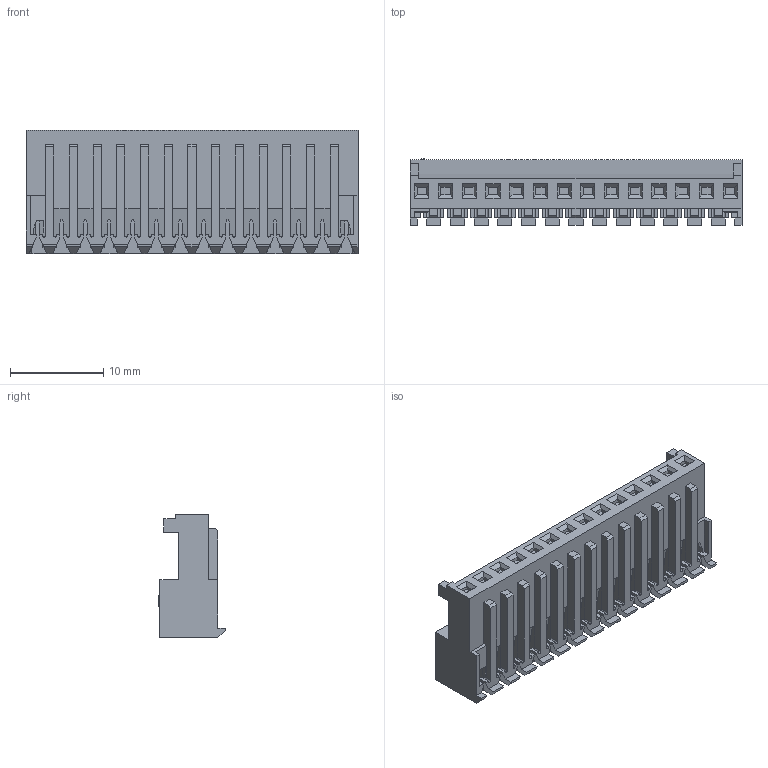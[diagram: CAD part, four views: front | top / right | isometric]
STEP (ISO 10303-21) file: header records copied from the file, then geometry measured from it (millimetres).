
FILE_DESCRIPTION((''),'2;1');
FILE_NAME('C-4-644512-4','2008-12-23T',('workeradm'),('Tyco Electronics Corporation'),'PRO/ENGINEER BY PARAMETRIC TECHNOLOGY CORPORATION, 2005450','PRO/ENGINEER BY PARAMETRIC TECHNOLOGY CORPORATION, 2005450','');
FILE_SCHEMA(('CONFIG_CONTROL_DESIGN', 'GEOMETRIC_VALIDATION_PROPERTIES_MIM'));
Length unit declared in the file: millimetre
Products named in the file (1): C-4-644512-4
Bounding box: 35.56 x 7.09 x 13.21 mm (x, y, z)
Volume: 1558.6 mm3; surface area: 3250.6 mm2
Topology: 1 solids, 1 shells, 1188 faces, 3493 edges, 2292 vertices
Faces by surface type: plane 1106, cylinder 82
Entity records: 38922 total; most frequent: ORIENTED_EDGE 6986, CARTESIAN_POINT 6974, DIRECTION 6033, EDGE_CURVE 3493, VECTOR 3329, LINE 3329, VERTEX_POINT 2292, AXIS2_PLACEMENT_3D 1352
